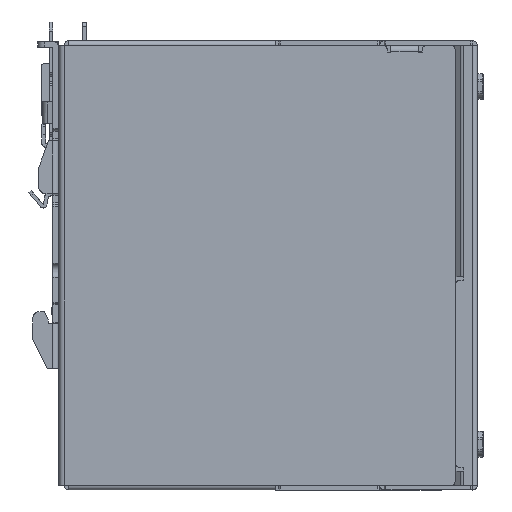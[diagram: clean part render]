
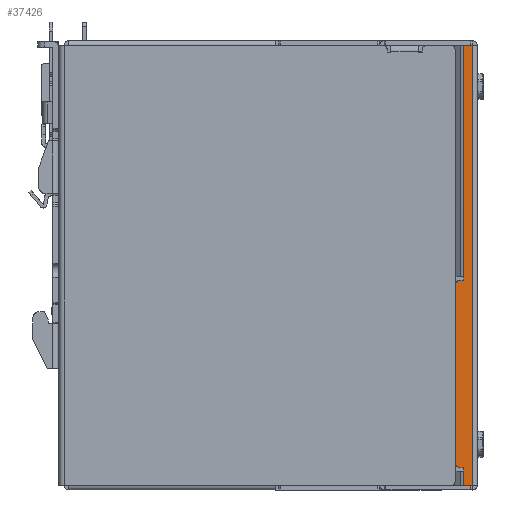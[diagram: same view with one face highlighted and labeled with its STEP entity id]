
A CAD part, front view. The second image highlights one B-rep face of the part: STEP entity #37426.
In plain terms, the highlighted planar face has unit normal (0, -1, 0).
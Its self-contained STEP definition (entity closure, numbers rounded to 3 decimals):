
#165 = CARTESIAN_POINT ( 'NONE',  ( 110.95, -56., -56.1 ) ) ;
#1306 = CARTESIAN_POINT ( 'NONE',  ( 113.05, -56., -57.544 ) ) ;
#5290 = DIRECTION ( 'NONE',  ( 0., 0., -1. ) ) ;
#6971 = EDGE_CURVE ( 'NONE', #10377, #110481, #84284, .T. ) ;
#10377 = VERTEX_POINT ( 'NONE', #70159 ) ;
#10643 = VERTEX_POINT ( 'NONE', #109442 ) ;
#12347 = DIRECTION ( 'NONE',  ( 0., 0., -1. ) ) ;
#12362 = ORIENTED_EDGE ( 'NONE', *, *, #29311, .T. ) ;
#13787 = LINE ( 'NONE', #23514, #57948 ) ;
#14383 = CARTESIAN_POINT ( 'NONE',  ( 116.8, -56., -57.1 ) ) ;
#14654 = CARTESIAN_POINT ( 'NONE',  ( 116.8, -56., -62.1 ) ) ;
#16616 = CARTESIAN_POINT ( 'NONE',  ( 113.037, -56., -62.1 ) ) ;
#16918 = PLANE ( 'NONE',  #51679 ) ;
#17054 = CARTESIAN_POINT ( 'NONE',  ( 113.048, -56., -4.6 ) ) ;
#17165 = VERTEX_POINT ( 'NONE', #119237 ) ;
#18465 = CARTESIAN_POINT ( 'NONE',  ( 113.048, -56., -58.1 ) ) ;
#19853 = EDGE_CURVE ( 'NONE', #54768, #98758, #71892, .T. ) ;
#19891 = VERTEX_POINT ( 'NONE', #89393 ) ;
#20068 = CARTESIAN_POINT ( 'NONE',  ( 113.048, -56., -57.878 ) ) ;
#20638 = ORIENTED_EDGE ( 'NONE', *, *, #35619, .T. ) ;
#21744 = ORIENTED_EDGE ( 'NONE', *, *, #23339, .T. ) ;
#23339 = EDGE_CURVE ( 'NONE', #98758, #10377, #99791, .T. ) ;
#23514 = CARTESIAN_POINT ( 'NONE',  ( 116.8, -56., 59.1 ) ) ;
#24448 = VECTOR ( 'NONE', #12347, 1000. ) ;
#25726 = B_SPLINE_CURVE_WITH_KNOTS ( 'NONE', 3,
 ( #105890, #74899, #27608, #96183 ),
 .UNSPECIFIED., .F., .F.,
 ( 4, 4 ),
 ( 0., 1. ),
 .UNSPECIFIED. ) ;
#26930 = ORIENTED_EDGE ( 'NONE', *, *, #125283, .F. ) ;
#27497 = AXIS2_PLACEMENT_3D ( 'NONE', #70306, #119453, #39944 ) ;
#27589 = AXIS2_PLACEMENT_3D ( 'NONE', #78587, #89550, #60416 ) ;
#27608 = CARTESIAN_POINT ( 'NONE',  ( 113.042, -56., 16.633 ) ) ;
#28314 = LINE ( 'NONE', #116969, #33994 ) ;
#29311 = EDGE_CURVE ( 'NONE', #36081, #10643, #28314, .T. ) ;
#31145 = CARTESIAN_POINT ( 'NONE',  ( 110.95, -56., 59.1 ) ) ;
#32863 = EDGE_CURVE ( 'NONE', #10643, #19891, #88982, .T. ) ;
#33994 = VECTOR ( 'NONE', #89775, 1000. ) ;
#34444 = DIRECTION ( 'NONE',  ( 0., -1., 0. ) ) ;
#35619 = EDGE_CURVE ( 'NONE', #67324, #107230, #77833, .T. ) ;
#36081 = VERTEX_POINT ( 'NONE', #17054 ) ;
#36775 = VECTOR ( 'NONE', #44467, 1000. ) ;
#37426 = ADVANCED_FACE ( 'NONE', ( #75850 ), #16918, .T. ) ;
#39944 = DIRECTION ( 'NONE',  ( 0., 0., -1. ) ) ;
#44467 = DIRECTION ( 'NONE',  ( 1., 0., 0. ) ) ;
#44571 = ORIENTED_EDGE ( 'NONE', *, *, #90453, .T. ) ;
#47376 = ORIENTED_EDGE ( 'NONE', *, *, #67333, .T. ) ;
#47859 = ORIENTED_EDGE ( 'NONE', *, *, #19853, .T. ) ;
#51679 = AXIS2_PLACEMENT_3D ( 'NONE', #63561, #34444, #5290 ) ;
#52259 = LINE ( 'NONE', #14654, #36775 ) ;
#54016 = EDGE_CURVE ( 'NONE', #65444, #36081, #25726, .T. ) ;
#54547 = ORIENTED_EDGE ( 'NONE', *, *, #6971, .T. ) ;
#54768 = VERTEX_POINT ( 'NONE', #128022 ) ;
#56514 = CARTESIAN_POINT ( 'NONE',  ( 115.6, -56., 59.1 ) ) ;
#57948 = VECTOR ( 'NONE', #110874, 1000. ) ;
#57976 = EDGE_LOOP ( 'NONE', ( #47859, #21744, #54547, #79174, #20638, #95131, #26930, #44571, #96267, #12362, #113082, #47376 ) ) ;
#60416 = DIRECTION ( 'NONE',  ( 0., 0., -1. ) ) ;
#63561 = CARTESIAN_POINT ( 'NONE',  ( 116.8, -56., 59.1 ) ) ;
#65444 = VERTEX_POINT ( 'NONE', #107770 ) ;
#67324 = VERTEX_POINT ( 'NONE', #88268 ) ;
#67333 = EDGE_CURVE ( 'NONE', #19891, #54768, #83385, .T. ) ;
#70159 = CARTESIAN_POINT ( 'NONE',  ( 111.95, -56., -57.1 ) ) ;
#70306 = CARTESIAN_POINT ( 'NONE',  ( 111.95, -56., -56.1 ) ) ;
#71892 = LINE ( 'NONE', #31145, #24448 ) ;
#71943 = B_SPLINE_CURVE_WITH_KNOTS ( 'NONE', 3,
 ( #117171, #1306, #20068, #87438 ),
 .UNSPECIFIED., .F., .F.,
 ( 4, 4 ),
 ( 0., 1. ),
 .UNSPECIFIED. ) ;
#74899 = CARTESIAN_POINT ( 'NONE',  ( 113.04, -56., 37.867 ) ) ;
#75850 = FACE_OUTER_BOUND ( 'NONE', #57976, .T. ) ;
#77833 = B_SPLINE_CURVE_WITH_KNOTS ( 'NONE', 3,
 ( #18465, #107106, #98056, #95516 ),
 .UNSPECIFIED., .F., .F.,
 ( 4, 4 ),
 ( 0., 1. ),
 .UNSPECIFIED. ) ;
#78021 = DIRECTION ( 'NONE',  ( -1., 0., 0. ) ) ;
#78587 = CARTESIAN_POINT ( 'NONE',  ( 111.95, -56., -6.6 ) ) ;
#78937 = VECTOR ( 'NONE', #84930, 1000. ) ;
#79174 = ORIENTED_EDGE ( 'NONE', *, *, #105753, .T. ) ;
#79616 = DIRECTION ( 'NONE',  ( 0., 0., -1. ) ) ;
#83198 = VECTOR ( 'NONE', #79616, 1000. ) ;
#83385 = CIRCLE ( 'NONE', #27589, 1. ) ;
#84284 = LINE ( 'NONE', #14383, #78937 ) ;
#84930 = DIRECTION ( 'NONE',  ( 1., 0., 0. ) ) ;
#87438 = CARTESIAN_POINT ( 'NONE',  ( 113.048, -56., -58.1 ) ) ;
#88070 = VERTEX_POINT ( 'NONE', #56514 ) ;
#88268 = CARTESIAN_POINT ( 'NONE',  ( 113.048, -56., -58.1 ) ) ;
#88982 = LINE ( 'NONE', #98040, #102085 ) ;
#89393 = CARTESIAN_POINT ( 'NONE',  ( 111.95, -56., -5.6 ) ) ;
#89550 = DIRECTION ( 'NONE',  ( 0., -1., 0. ) ) ;
#89775 = DIRECTION ( 'NONE',  ( 0., 0., -1. ) ) ;
#90453 = EDGE_CURVE ( 'NONE', #88070, #65444, #13787, .T. ) ;
#95131 = ORIENTED_EDGE ( 'NONE', *, *, #116095, .T. ) ;
#95516 = CARTESIAN_POINT ( 'NONE',  ( 113.037, -56., -62.1 ) ) ;
#96183 = CARTESIAN_POINT ( 'NONE',  ( 113.048, -56., -4.6 ) ) ;
#96267 = ORIENTED_EDGE ( 'NONE', *, *, #54016, .T. ) ;
#98040 = CARTESIAN_POINT ( 'NONE',  ( 116.8, -56., -5.6 ) ) ;
#98056 = CARTESIAN_POINT ( 'NONE',  ( 113.04, -56., -60.767 ) ) ;
#98758 = VERTEX_POINT ( 'NONE', #165 ) ;
#99791 = CIRCLE ( 'NONE', #27497, 1. ) ;
#102085 = VECTOR ( 'NONE', #78021, 1000. ) ;
#105753 = EDGE_CURVE ( 'NONE', #110481, #67324, #71943, .T. ) ;
#105890 = CARTESIAN_POINT ( 'NONE',  ( 113.037, -56., 59.1 ) ) ;
#107106 = CARTESIAN_POINT ( 'NONE',  ( 113.042, -56., -59.433 ) ) ;
#107230 = VERTEX_POINT ( 'NONE', #16616 ) ;
#107770 = CARTESIAN_POINT ( 'NONE',  ( 113.037, -56., 59.1 ) ) ;
#109442 = CARTESIAN_POINT ( 'NONE',  ( 113.05, -56., -5.6 ) ) ;
#110481 = VERTEX_POINT ( 'NONE', #121788 ) ;
#110874 = DIRECTION ( 'NONE',  ( -1., 0., 0. ) ) ;
#113082 = ORIENTED_EDGE ( 'NONE', *, *, #32863, .T. ) ;
#116095 = EDGE_CURVE ( 'NONE', #107230, #17165, #52259, .T. ) ;
#116969 = CARTESIAN_POINT ( 'NONE',  ( 113.05, -56., -5.1 ) ) ;
#117131 = CARTESIAN_POINT ( 'NONE',  ( 115.6, -56., -62.1 ) ) ;
#117171 = CARTESIAN_POINT ( 'NONE',  ( 113.05, -56., -57.1 ) ) ;
#118414 = LINE ( 'NONE', #117131, #83198 ) ;
#119237 = CARTESIAN_POINT ( 'NONE',  ( 115.6, -56., -62.1 ) ) ;
#119453 = DIRECTION ( 'NONE',  ( 0., -1., 0. ) ) ;
#121788 = CARTESIAN_POINT ( 'NONE',  ( 113.05, -56., -57.1 ) ) ;
#125283 = EDGE_CURVE ( 'NONE', #88070, #17165, #118414, .T. ) ;
#128022 = CARTESIAN_POINT ( 'NONE',  ( 110.95, -56., -6.6 ) ) ;
